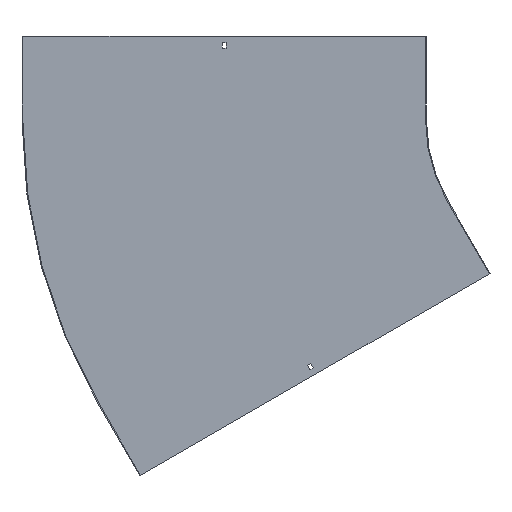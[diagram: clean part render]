
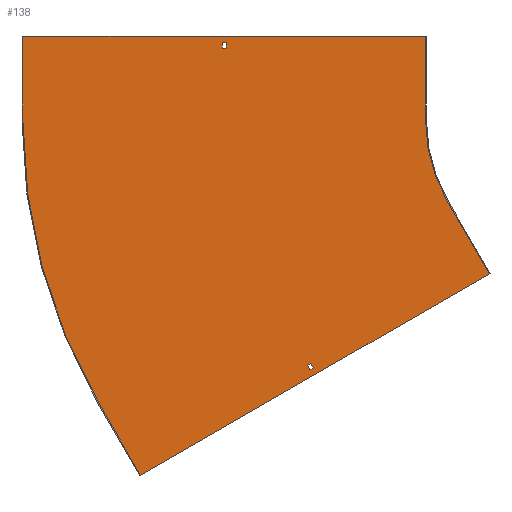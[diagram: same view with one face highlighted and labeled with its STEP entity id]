
A CAD part, front view. The second image highlights one B-rep face of the part: STEP entity #138.
In plain terms, the highlighted planar face has unit normal (0, -1, 0).
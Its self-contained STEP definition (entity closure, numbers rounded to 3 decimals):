
#2 = CARTESIAN_POINT ( 'NONE',  ( -646.75, -1.5, 0. ) ) ;
#17 = CARTESIAN_POINT ( 'NONE',  ( -799.686, -1.5, -634.904 ) ) ;
#30 = EDGE_CURVE ( 'NONE', #428, #199, #690, .T. ) ;
#45 = ORIENTED_EDGE ( 'NONE', *, *, #738, .F. ) ;
#57 = EDGE_CURVE ( 'NONE', #79, #667, #83, .T. ) ;
#58 = CARTESIAN_POINT ( 'NONE',  ( -496.731, -1.5, -446.137 ) ) ;
#60 = LINE ( 'NONE', #119, #620 ) ;
#67 = ORIENTED_EDGE ( 'NONE', *, *, #115, .F. ) ;
#77 = ORIENTED_EDGE ( 'NONE', *, *, #168, .F. ) ;
#79 = VERTEX_POINT ( 'NONE', #229 ) ;
#83 = LINE ( 'NONE', #157, #760 ) ;
#92 = VECTOR ( 'NONE', #391, 1000. ) ;
#99 = CARTESIAN_POINT ( 'NONE',  ( -251.147, -1.5, -145. ) ) ;
#101 = VECTOR ( 'NONE', #366, 1000. ) ;
#103 = FACE_OUTER_BOUND ( 'NONE', #675, .T. ) ;
#105 = EDGE_CURVE ( 'NONE', #341, #481, #698, .T. ) ;
#112 = CARTESIAN_POINT ( 'NONE',  ( 0., -1.5, 138. ) ) ;
#115 = EDGE_CURVE ( 'NONE', #548, #824, #653, .T. ) ;
#119 = CARTESIAN_POINT ( 'NONE',  ( -799.686, -1.5, -634.904 ) ) ;
#130 = EDGE_CURVE ( 'NONE', #761, #548, #593, .T. ) ;
#131 = CARTESIAN_POINT ( 'NONE',  ( -491.102, -1.5, -442.887 ) ) ;
#138 = ADVANCED_FACE ( 'NONE', ( #315, #103, #502 ), #192, .T. ) ;
#154 = CARTESIAN_POINT ( 'NONE',  ( -1010., -1.5, 0. ) ) ;
#157 = CARTESIAN_POINT ( 'NONE',  ( -653.25, -1.5, 0. ) ) ;
#165 = CARTESIAN_POINT ( 'NONE',  ( -290., -1.5, 150. ) ) ;
#168 = EDGE_CURVE ( 'NONE', #481, #611, #721, .T. ) ;
#180 = CARTESIAN_POINT ( 'NONE',  ( 64.5, -1.5, -111.717 ) ) ;
#182 = CARTESIAN_POINT ( 'NONE',  ( 0., -1.5, 0. ) ) ;
#186 = EDGE_CURVE ( 'NONE', #611, #651, #60, .T. ) ;
#188 = CARTESIAN_POINT ( 'NONE',  ( 69., -1.5, -119.512 ) ) ;
#189 = LINE ( 'NONE', #180, #383 ) ;
#192 = PLANE ( 'NONE',  #691 ) ;
#199 = VERTEX_POINT ( 'NONE', #839 ) ;
#208 = VECTOR ( 'NONE', #368, 1000. ) ;
#224 = CARTESIAN_POINT ( 'NONE',  ( -653.25, -1.5, 138. ) ) ;
#229 = CARTESIAN_POINT ( 'NONE',  ( -653.25, -1.5, 129. ) ) ;
#237 = DIRECTION ( 'NONE',  ( -0.5, 0., 0.866 ) ) ;
#240 = DIRECTION ( 'NONE',  ( 0., -1., 0. ) ) ;
#244 = CARTESIAN_POINT ( 'NONE',  ( 0., -1.5, 0. ) ) ;
#245 = DIRECTION ( 'NONE',  ( -0.866, 0., -0.5 ) ) ;
#250 = CARTESIAN_POINT ( 'NONE',  ( -646.75, -1.5, 129. ) ) ;
#271 = AXIS2_PLACEMENT_3D ( 'NONE', #661, #529, #669 ) ;
#278 = ORIENTED_EDGE ( 'NONE', *, *, #328, .F. ) ;
#283 = ORIENTED_EDGE ( 'NONE', *, *, #379, .F. ) ;
#289 = LINE ( 'NONE', #486, #101 ) ;
#290 = EDGE_CURVE ( 'NONE', #651, #447, #814, .T. ) ;
#295 = DIRECTION ( 'NONE',  ( 1., 0., 0. ) ) ;
#314 = CARTESIAN_POINT ( 'NONE',  ( -290., -1.5, 150. ) ) ;
#315 = FACE_BOUND ( 'NONE', #399, .T. ) ;
#325 = CARTESIAN_POINT ( 'NONE',  ( -560.102, -1.5, -323.375 ) ) ;
#326 = VECTOR ( 'NONE', #407, 1000. ) ;
#328 = EDGE_CURVE ( 'NONE', #848, #761, #537, .T. ) ;
#331 = VECTOR ( 'NONE', #747, 1000. ) ;
#332 = VERTEX_POINT ( 'NONE', #475 ) ;
#335 = ORIENTED_EDGE ( 'NONE', *, *, #105, .F. ) ;
#341 = VERTEX_POINT ( 'NONE', #511 ) ;
#342 = EDGE_LOOP ( 'NONE', ( #767, #735, #692, #604 ) ) ;
#359 = CARTESIAN_POINT ( 'NONE',  ( -1011.5, -1.5, 150. ) ) ;
#366 = DIRECTION ( 'NONE',  ( -1., 0., 0. ) ) ;
#368 = DIRECTION ( 'NONE',  ( 0.5, 0., -0.866 ) ) ;
#370 = LINE ( 'NONE', #154, #703 ) ;
#371 = DIRECTION ( 'NONE',  ( 0., 0., -1. ) ) ;
#374 = CARTESIAN_POINT ( 'NONE',  ( -1010., -1.5, 0. ) ) ;
#377 = CARTESIAN_POINT ( 'NONE',  ( -495.602, -1.5, -435.092 ) ) ;
#379 = EDGE_CURVE ( 'NONE', #199, #341, #842, .T. ) ;
#383 = VECTOR ( 'NONE', #571, 1000. ) ;
#391 = DIRECTION ( 'NONE',  ( 0.866, 0., 0.5 ) ) ;
#399 = EDGE_LOOP ( 'NONE', ( #67, #587, #278, #517 ) ) ;
#400 = ORIENTED_EDGE ( 'NONE', *, *, #186, .F. ) ;
#407 = DIRECTION ( 'NONE',  ( 0.5, 0., -0.866 ) ) ;
#411 = VECTOR ( 'NONE', #295, 1000. ) ;
#412 = VECTOR ( 'NONE', #590, 1000. ) ;
#428 = VERTEX_POINT ( 'NONE', #314 ) ;
#429 = LINE ( 'NONE', #359, #411 ) ;
#445 = DIRECTION ( 'NONE',  ( 0., -1., 0. ) ) ;
#446 = CARTESIAN_POINT ( 'NONE',  ( -174.848, -1.5, -274.154 ) ) ;
#447 = VERTEX_POINT ( 'NONE', #374 ) ;
#449 = CARTESIAN_POINT ( 'NONE',  ( -176.147, -1.5, -274.904 ) ) ;
#462 = VERTEX_POINT ( 'NONE', #250 ) ;
#467 = AXIS2_PLACEMENT_3D ( 'NONE', #244, #445, #855 ) ;
#471 = VECTOR ( 'NONE', #237, 1000. ) ;
#475 = CARTESIAN_POINT ( 'NONE',  ( -646.75, -1.5, 138. ) ) ;
#481 = VERTEX_POINT ( 'NONE', #449 ) ;
#486 = CARTESIAN_POINT ( 'NONE',  ( 0., -1.5, 129. ) ) ;
#502 = FACE_BOUND ( 'NONE', #342, .T. ) ;
#504 = CARTESIAN_POINT ( 'NONE',  ( -501.231, -1.5, -438.342 ) ) ;
#511 = CARTESIAN_POINT ( 'NONE',  ( -251.147, -1.5, -145. ) ) ;
#517 = ORIENTED_EDGE ( 'NONE', *, *, #803, .F. ) ;
#524 = LINE ( 'NONE', #112, #412 ) ;
#527 = DIRECTION ( 'NONE',  ( 0., 0., -1. ) ) ;
#528 = EDGE_CURVE ( 'NONE', #332, #462, #609, .T. ) ;
#529 = DIRECTION ( 'NONE',  ( 0., 1., 0. ) ) ;
#530 = VERTEX_POINT ( 'NONE', #726 ) ;
#537 = LINE ( 'NONE', #602, #326 ) ;
#548 = VERTEX_POINT ( 'NONE', #131 ) ;
#562 = DIRECTION ( 'NONE',  ( 0., 0., 1. ) ) ;
#568 = DIRECTION ( 'NONE',  ( 0., 0., 1. ) ) ;
#571 = DIRECTION ( 'NONE',  ( -0.866, 0., -0.5 ) ) ;
#577 = DIRECTION ( 'NONE',  ( -0.5, 0., 0.866 ) ) ;
#587 = ORIENTED_EDGE ( 'NONE', *, *, #130, .F. ) ;
#590 = DIRECTION ( 'NONE',  ( 1., 0., 0. ) ) ;
#593 = LINE ( 'NONE', #188, #92 ) ;
#602 = CARTESIAN_POINT ( 'NONE',  ( -565.731, -1.5, -326.625 ) ) ;
#604 = ORIENTED_EDGE ( 'NONE', *, *, #57, .T. ) ;
#607 = ORIENTED_EDGE ( 'NONE', *, *, #290, .F. ) ;
#609 = LINE ( 'NONE', #2, #657 ) ;
#611 = VERTEX_POINT ( 'NONE', #17 ) ;
#620 = VECTOR ( 'NONE', #577, 1000. ) ;
#651 = VERTEX_POINT ( 'NONE', #818 ) ;
#653 = LINE ( 'NONE', #325, #471 ) ;
#657 = VECTOR ( 'NONE', #527, 1000. ) ;
#661 = CARTESIAN_POINT ( 'NONE',  ( 0., -1.5, 0. ) ) ;
#667 = VERTEX_POINT ( 'NONE', #224 ) ;
#669 = DIRECTION ( 'NONE',  ( 0., 0., -1. ) ) ;
#670 = EDGE_CURVE ( 'NONE', #530, #428, #429, .T. ) ;
#675 = EDGE_LOOP ( 'NONE', ( #802, #45, #607, #400, #77, #335, #283, #700 ) ) ;
#690 = LINE ( 'NONE', #165, #331 ) ;
#691 = AXIS2_PLACEMENT_3D ( 'NONE', #182, #240, #371 ) ;
#692 = ORIENTED_EDGE ( 'NONE', *, *, #725, .T. ) ;
#698 = LINE ( 'NONE', #99, #208 ) ;
#700 = ORIENTED_EDGE ( 'NONE', *, *, #30, .F. ) ;
#703 = VECTOR ( 'NONE', #568, 1000. ) ;
#721 = LINE ( 'NONE', #446, #732 ) ;
#725 = EDGE_CURVE ( 'NONE', #462, #79, #289, .T. ) ;
#726 = CARTESIAN_POINT ( 'NONE',  ( -1010., -1.5, 150. ) ) ;
#732 = VECTOR ( 'NONE', #245, 1000. ) ;
#735 = ORIENTED_EDGE ( 'NONE', *, *, #528, .T. ) ;
#738 = EDGE_CURVE ( 'NONE', #447, #530, #370, .T. ) ;
#747 = DIRECTION ( 'NONE',  ( 0., 0., -1. ) ) ;
#760 = VECTOR ( 'NONE', #562, 1000. ) ;
#761 = VERTEX_POINT ( 'NONE', #58 ) ;
#767 = ORIENTED_EDGE ( 'NONE', *, *, #858, .T. ) ;
#802 = ORIENTED_EDGE ( 'NONE', *, *, #670, .F. ) ;
#803 = EDGE_CURVE ( 'NONE', #824, #848, #189, .T. ) ;
#814 = CIRCLE ( 'NONE', #271, 1010. ) ;
#818 = CARTESIAN_POINT ( 'NONE',  ( -874.686, -1.5, -505. ) ) ;
#824 = VERTEX_POINT ( 'NONE', #377 ) ;
#839 = CARTESIAN_POINT ( 'NONE',  ( -290., -1.5, 0. ) ) ;
#842 = CIRCLE ( 'NONE', #467, 290. ) ;
#848 = VERTEX_POINT ( 'NONE', #504 ) ;
#855 = DIRECTION ( 'NONE',  ( 0., 0., -1. ) ) ;
#858 = EDGE_CURVE ( 'NONE', #667, #332, #524, .T. ) ;
